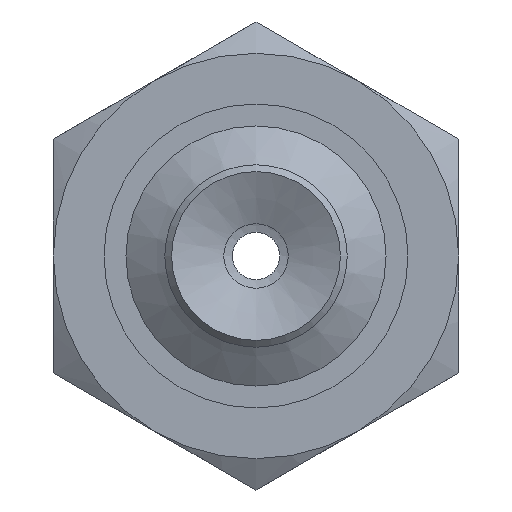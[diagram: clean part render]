
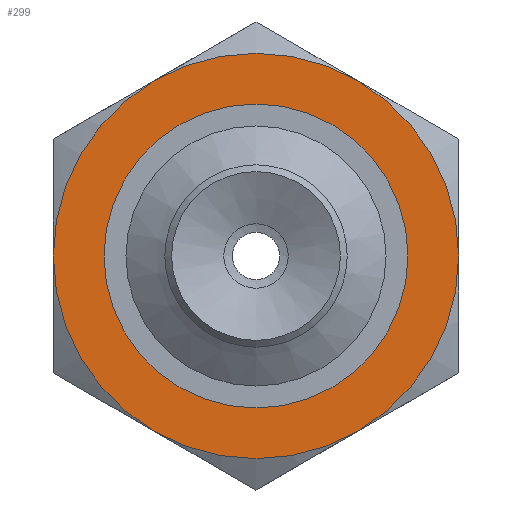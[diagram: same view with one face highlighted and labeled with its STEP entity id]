
A CAD part, front view. The second image highlights one B-rep face of the part: STEP entity #299.
In plain terms, the highlighted planar face has unit normal (0, -1, 0) as drawn and (-1, 0, 0) by its records, which use the part's own axes.
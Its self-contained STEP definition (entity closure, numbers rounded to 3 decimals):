
#299=ADVANCED_FACE('',(#382,#383),#384,.F.);
#382=FACE_BOUND('',#551,.T.);
#383=FACE_OUTER_BOUND('',#552,.T.);
#384=PLANE('',#553);
#551=EDGE_LOOP('',(#841));
#552=EDGE_LOOP('',(#842,#843,#844,#845,#846,#847));
#553=AXIS2_PLACEMENT_3D('',#848,#849,#850);
#841=ORIENTED_EDGE('',*,*,#1112,.T.);
#842=ORIENTED_EDGE('',*,*,#1104,.F.);
#843=ORIENTED_EDGE('',*,*,#1077,.F.);
#844=ORIENTED_EDGE('',*,*,#1113,.F.);
#845=ORIENTED_EDGE('',*,*,#1092,.F.);
#846=ORIENTED_EDGE('',*,*,#1099,.F.);
#847=ORIENTED_EDGE('',*,*,#1094,.F.);
#848=CARTESIAN_POINT('',(0.,0.0,0.0));
#849=DIRECTION('',(1.0,0.0,0.0));
#850=DIRECTION('',(0.0,1.0,0.0));
#1077=EDGE_CURVE('',#1166,#1169,#1170,.T.);
#1092=EDGE_CURVE('',#1194,#1191,#1195,.T.);
#1094=EDGE_CURVE('',#1197,#1198,#1199,.T.);
#1099=EDGE_CURVE('',#1198,#1194,#1206,.T.);
#1104=EDGE_CURVE('',#1169,#1197,#1212,.T.);
#1112=EDGE_CURVE('',#1223,#1223,#1224,.T.);
#1113=EDGE_CURVE('',#1191,#1166,#1225,.T.);
#1166=VERTEX_POINT('',#1350);
#1169=VERTEX_POINT('',#1373);
#1170=CIRCLE('',#1374,6.0);
#1191=VERTEX_POINT('',#1477);
#1194=VERTEX_POINT('',#1500);
#1195=CIRCLE('',#1501,6.0);
#1197=VERTEX_POINT('',#1513);
#1198=VERTEX_POINT('',#1514);
#1199=CIRCLE('',#1515,6.0);
#1206=CIRCLE('',#1562,6.0);
#1212=CIRCLE('',#1590,6.0);
#1223=VERTEX_POINT('',#1621);
#1224=CIRCLE('',#1622,4.5);
#1225=CIRCLE('',#1623,6.0);
#1350=CARTESIAN_POINT('',(0.,0.0,-6.0));
#1373=CARTESIAN_POINT('',(0.,5.196,-3.0));
#1374=AXIS2_PLACEMENT_3D('',#1709,#1710,#1711);
#1477=CARTESIAN_POINT('',(0.,-5.196,-3.0));
#1500=CARTESIAN_POINT('',(0.,-5.196,3.0));
#1501=AXIS2_PLACEMENT_3D('',#1720,#1721,#1722);
#1513=CARTESIAN_POINT('',(0.,5.196,3.0));
#1514=CARTESIAN_POINT('',(0.,0.0,6.0));
#1515=AXIS2_PLACEMENT_3D('',#1723,#1724,#1725);
#1562=AXIS2_PLACEMENT_3D('',#1726,#1727,#1728);
#1590=AXIS2_PLACEMENT_3D('',#1731,#1732,#1733);
#1621=CARTESIAN_POINT('',(0.,0.0,-4.5));
#1622=AXIS2_PLACEMENT_3D('',#1749,#1750,#1751);
#1623=AXIS2_PLACEMENT_3D('',#1752,#1753,#1754);
#1709=CARTESIAN_POINT('',(0.,0.0,0.0));
#1710=DIRECTION('',(1.0,0.0,0.0));
#1711=DIRECTION('',(0.0,0.0,-1.0));
#1720=CARTESIAN_POINT('',(0.,0.0,0.0));
#1721=DIRECTION('',(1.0,0.0,0.0));
#1722=DIRECTION('',(0.0,0.0,-1.0));
#1723=CARTESIAN_POINT('',(0.,0.0,0.0));
#1724=DIRECTION('',(1.0,0.0,0.0));
#1725=DIRECTION('',(0.0,0.0,-1.0));
#1726=CARTESIAN_POINT('',(0.,0.0,0.0));
#1727=DIRECTION('',(1.0,0.0,0.0));
#1728=DIRECTION('',(0.0,0.0,-1.0));
#1731=CARTESIAN_POINT('',(0.,0.0,0.0));
#1732=DIRECTION('',(1.0,0.0,0.0));
#1733=DIRECTION('',(0.0,0.0,-1.0));
#1749=CARTESIAN_POINT('',(0.,0.0,0.0));
#1750=DIRECTION('',(1.0,0.0,0.0));
#1751=DIRECTION('',(0.0,0.0,-1.0));
#1752=CARTESIAN_POINT('',(0.,0.0,0.0));
#1753=DIRECTION('',(1.0,0.0,0.0));
#1754=DIRECTION('',(0.0,0.0,-1.0));
